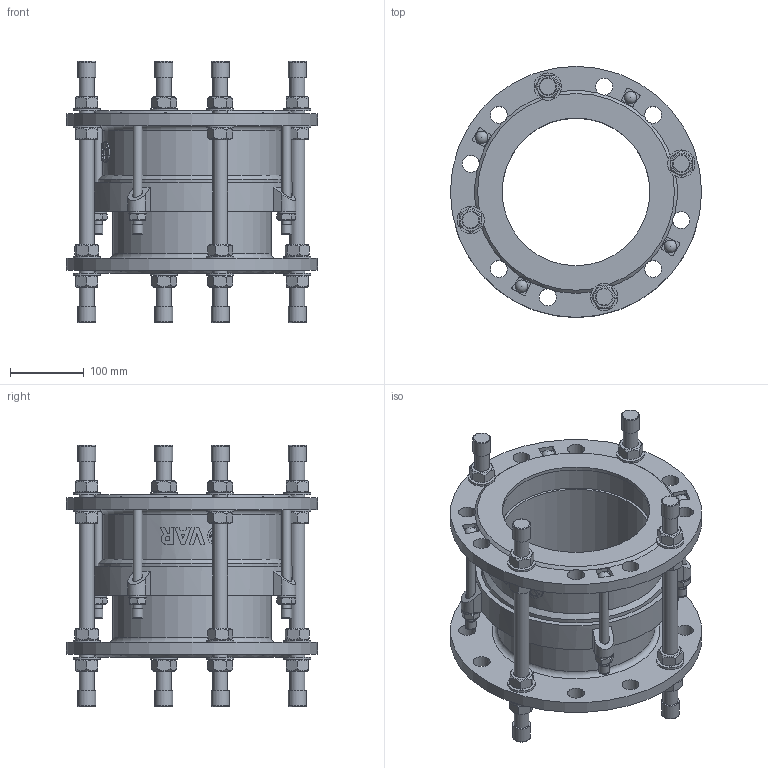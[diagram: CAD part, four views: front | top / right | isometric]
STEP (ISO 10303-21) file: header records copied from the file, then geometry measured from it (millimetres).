
FILE_DESCRIPTION(('STEP AP242'), '1');
FILE_NAME('Ìîíòàæíàÿ âñòàâêà DN200 PN16', '', ('UNSPECIFIED'), ('UNSPECIFIED'), 'C3D Converter', 'C3D Toolkit', '');
FILE_SCHEMA(('AP242_MANAGED_MODEL_BASED_3D_ENGINEERING_MIM_LF { 1 0 10303 442 1 1 4 }'));
Length unit declared in the file: millimetre
Products named in the file (13): ШМ.М16.310
Assembly tree (64 placements, depth 2):
  (unnamed)
    (unnamed)
    (unnamed)
    (unnamed)
    (unnamed)  x16
    (unnamed)  x16
    ШМ.М16.310  x4
    (unnamed)  x8
    (unnamed)
    (unnamed)  x4
    (unnamed)  x4
    (unnamed)  x4
    (unnamed)  x4
Bounding box: 340 x 340 x 354 mm (x, y, z)
Volume: 4679793.9 mm3; surface area: 1079773.6 mm2
Topology: 64 solids, 64 shells, 676 faces, 1514 edges, 968 vertices
Faces by surface type: plane 385, cylinder 163, cone 99, torus 14, extrusion 11, sphere 4
Full cylindrical faces by diameter (mm): 12 x12, 13 x4, 14 x4, 14.4 x4, 20 x28, 21 x16, 23 x24, 24 x12, 27.455 x1, 37 x16, 200 x2, 214 x2, 221 x2, 242 x1, 249 x1, 254 x1, 258 x1, 272 x1, 340 x2
Entity records: 16767 total; most frequent: CARTESIAN_POINT 8387, DIRECTION 1336, ORIENTED_EDGE 1172, EDGE_CURVE 586, AXIS2_PLACEMENT_3D 555, VERTEX_POINT 431, EDGE_LOOP 401, FACE_BOUND 287
